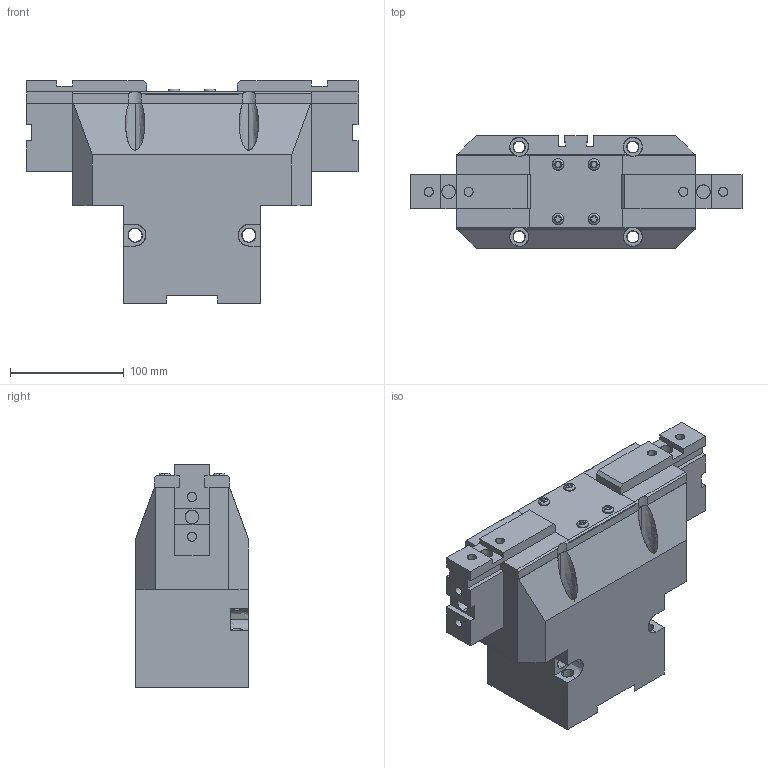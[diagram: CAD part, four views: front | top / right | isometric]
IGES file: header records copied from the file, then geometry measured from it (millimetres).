
Global section: file name: C:\Documents and Settings\Administrateur\Mes documents\OPE-210-X-OPEN.igs; native system: AutoCAD-16.0s (LMS Tech) (Microsoft Windows NT Version 5.1 (x86)); preprocessor: Autodesk IGES Translator Mechanical Desktop.R7.0.43.0 (Mar 18 2003) from Autodesk, Inc.; date: 20050630.063618; units: millimetre
Bounding box: 292 x 99 x 196 mm (x, y, z)
Surface area: 286032.1 mm2 (no closed solid volume)
Topology: 0 solids, 0 shells, 295 faces, 3142 edges, 3236 vertices
Faces by surface type: bspline 295
